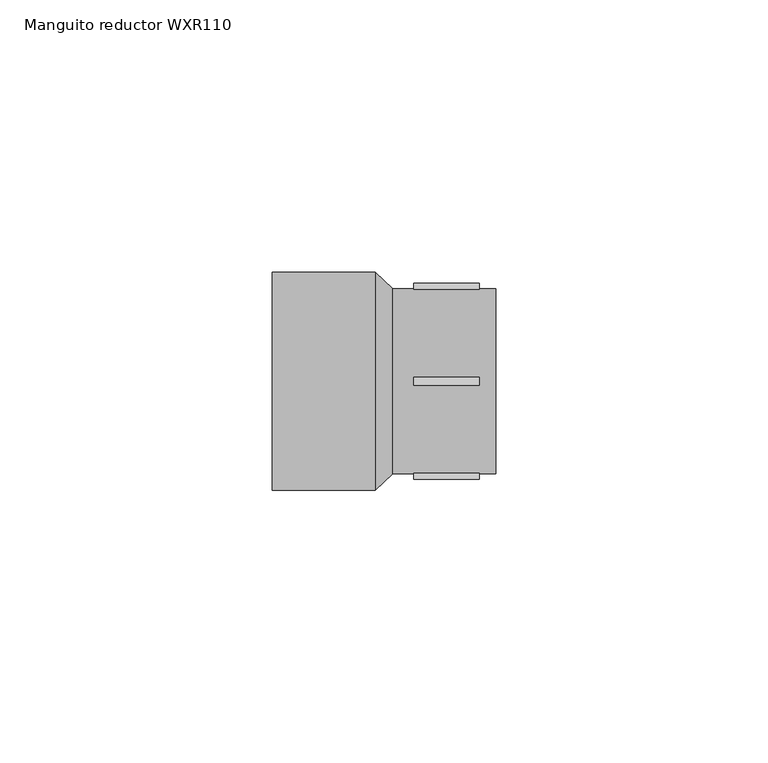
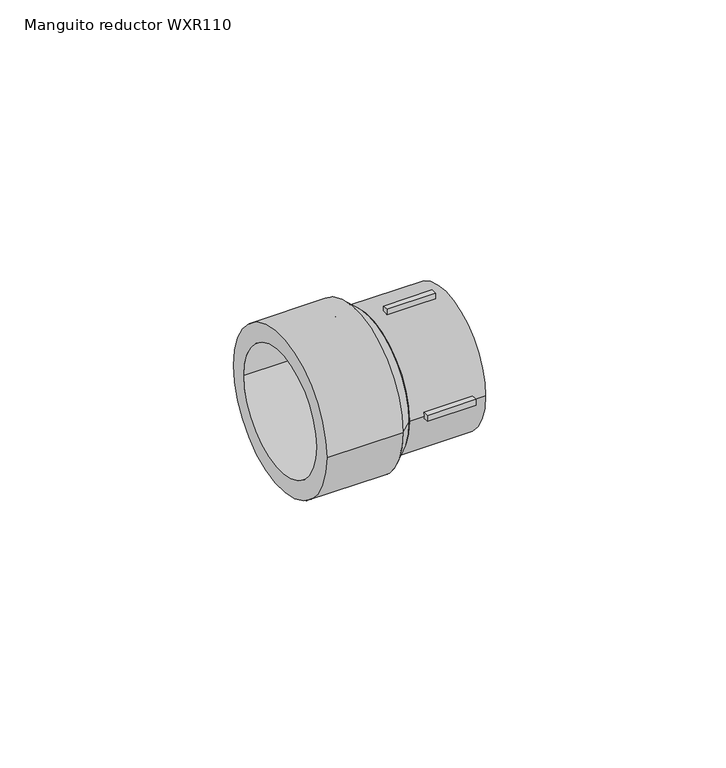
"""IFC4 building model written with IfcOpenShell, lengths in millimetres: pipe fitting geometry, EGB_VASEN_ PPR_Manguito reductor WXR110 : Manguito reductor WXR110."""

from ifc_helpers import new_model, si_unit, point, frame, origin, origin_2d, place, context, project, spatial, polyline, circle_curve, trimmed, segment, composite_curve, outline, extrude, source, transform, mapped, element, save
from ifc_brep_helpers import plane_surface, revolved_surface, advanced_brep


def manguito_reductor_wxr110_12ca8fa3(model_context):
    return source(origin(), model_context, "Body", "SolidModel", [
        extrude(outline(polyline([(5.5, -0.75), (5.5, 0.75), (17.5, 0.75), (17.5, -0.75), (5.5, -0.75)])), frame((0.0, 0.0, 16.0), z_axis=(0.0, 0.0, 1.0), x_axis=(1.0, 0.0, 0.0)), (0.0, 0.0, 1.0), 2.0),
        extrude(outline(polyline([(5.5, -0.75), (5.5, 0.75), (17.5, 0.75), (17.5, -0.75), (5.5, -0.75)])), frame((0.0, 0.0, -18.0), z_axis=(0.0, 0.0, 1.0), x_axis=(1.0, 0.0, 0.0)), (0.0, 0.0, 1.0), 2.0),
        extrude(outline(polyline([(5.5, 16.0), (5.5, 18.0), (17.5, 18.0), (17.5, 16.0), (5.5, 16.0)])), frame((0.0, 0.0, -0.75), z_axis=(0.0, 0.0, 1.0), x_axis=(1.0, 0.0, 0.0)), (0.0, 0.0, 1.0), 1.5),
        extrude(outline(polyline([(5.5, -18.0), (5.5, -16.0), (17.5, -16.0), (17.5, -18.0), (5.5, -18.0)])), frame((0.0, 0.0, -0.75), z_axis=(0.0, 0.0, 1.0), x_axis=(1.0, 0.0, 0.0)), (0.0, 0.0, 1.0), 1.5),
        extrude(outline(composite_curve([segment(trimmed(circle_curve(origin_2d(), 17.0), [point((-17.0, 0.0))], [point((17.0, 0.0))], False, "CARTESIAN"), True, "CONTINUOUS"), segment(trimmed(circle_curve(origin_2d(), 17.0), [point((17.0, 0.0))], [point((-17.0, 0.0))], False, "CARTESIAN"), True, "CONTINUOUS")], self_intersect=False), holes=[composite_curve([segment(trimmed(circle_curve(origin_2d(), 12.5), [point((-12.5, 0.0))], [point((12.5, 0.0))], True, "CARTESIAN"), True, "CONTINUOUS"), segment(trimmed(circle_curve(origin_2d(), 12.5), [point((12.5, 0.0))], [point((-12.5, 0.0))], True, "CARTESIAN"), True, "CONTINUOUS")], self_intersect=False)]), frame((1.64, 0.0, 0.0), z_axis=(1.0, 0.0, 0.0), x_axis=(0.0, 1.0, 0.0)), (0.0, 0.0, 1.0), 18.86),
        extrude(outline(composite_curve([segment(trimmed(circle_curve(origin_2d(), 20.0), [point((-20.0, 0.0))], [point((20.0, 0.0))], False, "CARTESIAN"), True, "CONTINUOUS"), segment(trimmed(circle_curve(origin_2d(), 20.0), [point((20.0, 0.0))], [point((-20.0, 0.0))], False, "CARTESIAN"), True, "CONTINUOUS")], self_intersect=False), holes=[composite_curve([segment(trimmed(circle_curve(origin_2d(), 15.5), [point((-15.5, 0.0))], [point((15.5, 0.0))], True, "CARTESIAN"), True, "CONTINUOUS"), segment(trimmed(circle_curve(origin_2d(), 15.5), [point((15.5, 0.0))], [point((-15.5, 0.0))], True, "CARTESIAN"), True, "CONTINUOUS")], self_intersect=False)]), frame((-20.5, 0.0, 0.0), z_axis=(1.0, 0.0, 0.0), x_axis=(0.0, 1.0, 0.0)), (0.0, 0.0, 1.0), 18.86),
        advanced_brep(
        [(1.64, -17.0, 0.0), (1.64, 17.0, 0.0), (-1.64, -20.0, 0.0), (-1.64, 20.0, 0.0)],
        [
            (0, 1, circle_curve(frame((1.64, 0.0, 0.0), z_axis=(1.0, 0.0, 0.0), x_axis=(0.0, -1.0, 0.0)), 17.0)),
            (1, 0, circle_curve(frame((1.64, 0.0, 0.0), z_axis=(1.0, 0.0, 0.0), x_axis=(0.0, 1.0, 0.0)), 17.0)),
            (2, 3, circle_curve(frame((-1.64, 0.0, 0.0), z_axis=(-1.0, 0.0, 0.0), x_axis=(0.0, 1.0, 0.0)), 20.0)),
            (3, 2, circle_curve(frame((-1.64, 0.0, 0.0), z_axis=(-1.0, 0.0, 0.0), x_axis=(0.0, -1.0, 0.0)), 20.0)),
            (3, 1),
            (0, 2),
        ],
        [
            plane_surface(frame((1.64, 0.0, 0.0), z_axis=(1.0, 0.0, 0.0), x_axis=(0.0, 0.0, -1.0))),
            plane_surface(frame((-1.64, 0.0, 0.0), z_axis=(-1.0, 0.0, 0.0), x_axis=(0.0, 0.0, -1.0))),
            revolved_surface(polyline([(1.6400000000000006, -17.00000000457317, 0.0), (-1.6400000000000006, -20.0, 0.0)]), (20.2266667, 0.0, 0.0), (-1.0, 0.0, 0.0)),
            revolved_surface(polyline([(1.6400000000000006, 17.00000000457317, 0.0), (-1.6400000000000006, 20.0, 0.0)]), (20.2266667, 0.0, 0.0), (-1.0, 0.0, 0.0)),
        ],
        [
            (0, [[1, 2]]),
            (1, [[3, 4]]),
            (2, [[-4, 5, -1, 6]]),
            (3, [[-3, -6, -2, -5]]),
        ],
    ),
    ])


if __name__ == "__main__":
    model = new_model("IFC4")
    model_context = context("Model", 3, world=origin())
    ifc_project = project(units=[si_unit("LENGTHUNIT", "METRE", prefix="MILLI")], contexts=[model_context])
    site = spatial("IfcSite", under=ifc_project)
    building = spatial("IfcBuilding", under=site)
    placement = place(None, origin())
    manguito_reductor_wxr110_shape = manguito_reductor_wxr110_12ca8fa3(model_context)
    element("IfcPipeFitting", 1, ObjectType="EGB_VASEN_ PPR_Manguito reductor WXR110 : Manguito reductor WXR110", at=placement, inside=building, context=model_context, shape_type="MappedRepresentation", body=[
        mapped(manguito_reductor_wxr110_shape, transform((0.0, 0.0, 0.0), x_axis=(1.0, 0.0, 0.0), y_axis=(0.0, 1.0, 0.0), z_axis=(0.0, 0.0, 1.0))),
    ])
    save(model, "model.ifc")
